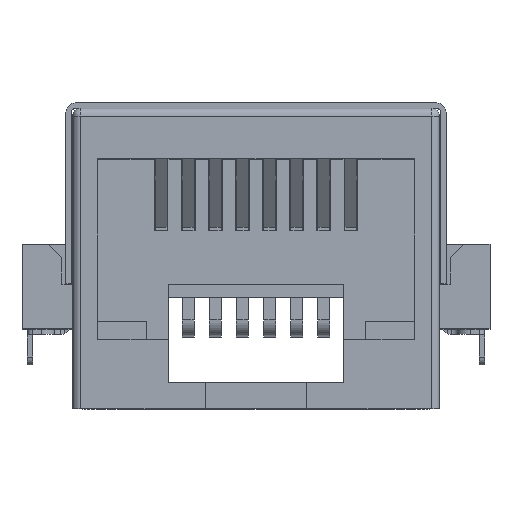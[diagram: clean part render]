
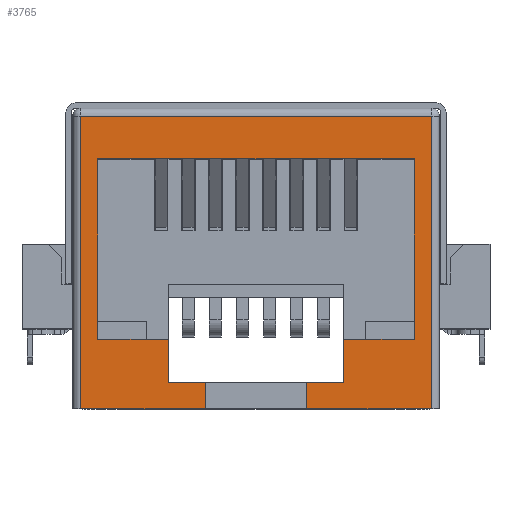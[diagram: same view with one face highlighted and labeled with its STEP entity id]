
A CAD part, top view. The second image highlights one B-rep face of the part: STEP entity #3765.
In plain terms, the highlighted planar face has unit normal (0, 0, 1).
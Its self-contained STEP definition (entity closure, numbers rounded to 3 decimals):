
#94 = VECTOR ( 'NONE', #2400, 1000. ) ;
#106 = CARTESIAN_POINT ( 'NONE',  ( 5.432, 3.002, 6.4 ) ) ;
#417 = EDGE_CURVE ( 'NONE', #15085, #4869, #5654, .T. ) ;
#470 = ORIENTED_EDGE ( 'NONE', *, *, #8264, .F. ) ;
#477 = DIRECTION ( 'NONE',  ( 1., 0., 0. ) ) ;
#484 = CARTESIAN_POINT ( 'NONE',  ( 5.432, 3.002, 6.4 ) ) ;
#950 = CARTESIAN_POINT ( 'NONE',  ( 0., 0., 6.4 ) ) ;
#1162 = LINE ( 'NONE', #14794, #14102 ) ;
#1293 = CARTESIAN_POINT ( 'NONE',  ( 2.782, -5.398, 6.4 ) ) ;
#1464 = DIRECTION ( 'NONE',  ( 1., 0., 0. ) ) ;
#1694 = ORIENTED_EDGE ( 'NONE', *, *, #15043, .T. ) ;
#1947 = EDGE_CURVE ( 'NONE', #7345, #17940, #4194, .T. ) ;
#2183 = ORIENTED_EDGE ( 'NONE', *, *, #417, .F. ) ;
#2227 = DIRECTION ( 'NONE',  ( 0., 1., 0. ) ) ;
#2255 = VECTOR ( 'NONE', #17512, 1000. ) ;
#2400 = DIRECTION ( 'NONE',  ( -1., 0., 0. ) ) ;
#2503 = ORIENTED_EDGE ( 'NONE', *, *, #11867, .F. ) ;
#3171 = CARTESIAN_POINT ( 'NONE',  ( -7.118, -6.398, 6.4 ) ) ;
#3333 = CARTESIAN_POINT ( 'NONE',  ( -6.468, 3.002, 6.4 ) ) ;
#3406 = VERTEX_POINT ( 'NONE', #8589 ) ;
#3534 = VERTEX_POINT ( 'NONE', #7232 ) ;
#3537 = ORIENTED_EDGE ( 'NONE', *, *, #10666, .F. ) ;
#3624 = CARTESIAN_POINT ( 'NONE',  ( -2.418, 3.935, 6.4 ) ) ;
#3670 = EDGE_CURVE ( 'NONE', #14871, #8683, #5391, .T. ) ;
#3727 = CARTESIAN_POINT ( 'NONE',  ( -3.818, -5.398, 6.4 ) ) ;
#3765 = ADVANCED_FACE ( 'NONE', ( #8040 ), #16388, .T. ) ;
#3775 = CARTESIAN_POINT ( 'NONE',  ( 1.382, 3.935, 6.4 ) ) ;
#3801 = CARTESIAN_POINT ( 'NONE',  ( -2.418, -5.398, 6.4 ) ) ;
#3809 = DIRECTION ( 'NONE',  ( 1., 0., 0. ) ) ;
#3819 = DIRECTION ( 'NONE',  ( 0., -1., 0. ) ) ;
#3995 = EDGE_CURVE ( 'NONE', #3534, #5067, #10197, .T. ) ;
#4151 = LINE ( 'NONE', #12408, #4690 ) ;
#4194 = LINE ( 'NONE', #8551, #12685 ) ;
#4487 = CARTESIAN_POINT ( 'NONE',  ( -7.118, 4.602, 6.4 ) ) ;
#4495 = ORIENTED_EDGE ( 'NONE', *, *, #8651, .T. ) ;
#4690 = VECTOR ( 'NONE', #11039, 1000. ) ;
#4869 = VERTEX_POINT ( 'NONE', #3801 ) ;
#4894 = ORIENTED_EDGE ( 'NONE', *, *, #10582, .T. ) ;
#5067 = VERTEX_POINT ( 'NONE', #6875 ) ;
#5069 = EDGE_CURVE ( 'NONE', #3406, #3534, #4151, .T. ) ;
#5158 = LINE ( 'NONE', #3624, #2255 ) ;
#5391 = LINE ( 'NONE', #16302, #94 ) ;
#5529 = EDGE_CURVE ( 'NONE', #16116, #3406, #8201, .T. ) ;
#5654 = LINE ( 'NONE', #13930, #9933 ) ;
#5900 = VERTEX_POINT ( 'NONE', #6813 ) ;
#5906 = VECTOR ( 'NONE', #477, 1000. ) ;
#6025 = DIRECTION ( 'NONE',  ( 1., 0., 0. ) ) ;
#6180 = VECTOR ( 'NONE', #11314, 1000. ) ;
#6344 = VECTOR ( 'NONE', #6768, 1000. ) ;
#6768 = DIRECTION ( 'NONE',  ( 0., -1., 0. ) ) ;
#6813 = CARTESIAN_POINT ( 'NONE',  ( -2.418, -6.398, 6.4 ) ) ;
#6848 = VERTEX_POINT ( 'NONE', #14296 ) ;
#6875 = CARTESIAN_POINT ( 'NONE',  ( 5.432, -3.798, 6.4 ) ) ;
#6884 = LINE ( 'NONE', #3333, #6180 ) ;
#6995 = ORIENTED_EDGE ( 'NONE', *, *, #1947, .F. ) ;
#7232 = CARTESIAN_POINT ( 'NONE',  ( 2.782, -3.798, 6.4 ) ) ;
#7345 = VERTEX_POINT ( 'NONE', #106 ) ;
#7398 = LINE ( 'NONE', #11384, #7652 ) ;
#7652 = VECTOR ( 'NONE', #6025, 1000. ) ;
#7876 = VERTEX_POINT ( 'NONE', #3171 ) ;
#7937 = CARTESIAN_POINT ( 'NONE',  ( -3.818, -3.798, 6.4 ) ) ;
#8040 = FACE_OUTER_BOUND ( 'NONE', #8078, .T. ) ;
#8042 = LINE ( 'NONE', #3775, #6344 ) ;
#8078 = EDGE_LOOP ( 'NONE', ( #4894, #17032, #17542, #1694, #4495, #3537, #2183, #10233, #2503, #470, #6995, #9900, #11270, #10139, #16320, #17962 ) ) ;
#8201 = LINE ( 'NONE', #1293, #11072 ) ;
#8264 = EDGE_CURVE ( 'NONE', #17940, #6848, #6884, .T. ) ;
#8296 = DIRECTION ( 'NONE',  ( 1., 0., 0. ) ) ;
#8551 = CARTESIAN_POINT ( 'NONE',  ( -6.468, 3.002, 6.4 ) ) ;
#8589 = CARTESIAN_POINT ( 'NONE',  ( 2.782, -5.398, 6.4 ) ) ;
#8651 = EDGE_CURVE ( 'NONE', #7876, #5900, #7398, .T. ) ;
#8683 = VERTEX_POINT ( 'NONE', #4487 ) ;
#9303 = CARTESIAN_POINT ( 'NONE',  ( 1.382, -6.398, 6.4 ) ) ;
#9900 = ORIENTED_EDGE ( 'NONE', *, *, #11288, .F. ) ;
#9933 = VECTOR ( 'NONE', #8296, 1000. ) ;
#10139 = ORIENTED_EDGE ( 'NONE', *, *, #5069, .F. ) ;
#10197 = LINE ( 'NONE', #15746, #5906 ) ;
#10233 = ORIENTED_EDGE ( 'NONE', *, *, #11385, .F. ) ;
#10383 = CARTESIAN_POINT ( 'NONE',  ( -3.818, -3.798, 6.4 ) ) ;
#10582 = EDGE_CURVE ( 'NONE', #12780, #16953, #12234, .T. ) ;
#10666 = EDGE_CURVE ( 'NONE', #4869, #5900, #5158, .T. ) ;
#10669 = DIRECTION ( 'NONE',  ( 1., 0., 0. ) ) ;
#10857 = CARTESIAN_POINT ( 'NONE',  ( 6.082, 4.602, 6.4 ) ) ;
#10971 = EDGE_CURVE ( 'NONE', #16953, #14871, #16131, .T. ) ;
#11039 = DIRECTION ( 'NONE',  ( 0., 1., 0. ) ) ;
#11072 = VECTOR ( 'NONE', #1464, 1000. ) ;
#11270 = ORIENTED_EDGE ( 'NONE', *, *, #3995, .F. ) ;
#11288 = EDGE_CURVE ( 'NONE', #5067, #7345, #12840, .T. ) ;
#11314 = DIRECTION ( 'NONE',  ( 0., -1., 0. ) ) ;
#11349 = CARTESIAN_POINT ( 'NONE',  ( 6.082, 4.602, 6.4 ) ) ;
#11384 = CARTESIAN_POINT ( 'NONE',  ( -9.318, -6.398, 6.4 ) ) ;
#11385 = EDGE_CURVE ( 'NONE', #12603, #15085, #14745, .T. ) ;
#11567 = VECTOR ( 'NONE', #3819, 1000. ) ;
#11621 = CARTESIAN_POINT ( 'NONE',  ( 1.382, -5.398, 6.4 ) ) ;
#11623 = CARTESIAN_POINT ( 'NONE',  ( -6.468, 3.002, 6.4 ) ) ;
#11698 = AXIS2_PLACEMENT_3D ( 'NONE', #950, #12298, #10669 ) ;
#11867 = EDGE_CURVE ( 'NONE', #6848, #12603, #1162, .T. ) ;
#11974 = LINE ( 'NONE', #12061, #11567 ) ;
#12061 = CARTESIAN_POINT ( 'NONE',  ( -7.118, -6.398, 6.4 ) ) ;
#12234 = LINE ( 'NONE', #13519, #15891 ) ;
#12298 = DIRECTION ( 'NONE',  ( 0., 0., 1. ) ) ;
#12408 = CARTESIAN_POINT ( 'NONE',  ( 2.782, -3.798, 6.4 ) ) ;
#12603 = VERTEX_POINT ( 'NONE', #10383 ) ;
#12685 = VECTOR ( 'NONE', #13824, 1000. ) ;
#12780 = VERTEX_POINT ( 'NONE', #9303 ) ;
#12840 = LINE ( 'NONE', #484, #15050 ) ;
#13519 = CARTESIAN_POINT ( 'NONE',  ( -9.318, -6.398, 6.4 ) ) ;
#13824 = DIRECTION ( 'NONE',  ( -1., 0., 0. ) ) ;
#13930 = CARTESIAN_POINT ( 'NONE',  ( 2.782, -5.398, 6.4 ) ) ;
#14102 = VECTOR ( 'NONE', #3809, 1000. ) ;
#14296 = CARTESIAN_POINT ( 'NONE',  ( -6.468, -3.798, 6.4 ) ) ;
#14745 = LINE ( 'NONE', #7937, #16775 ) ;
#14794 = CARTESIAN_POINT ( 'NONE',  ( -6.468, -3.798, 6.4 ) ) ;
#14871 = VERTEX_POINT ( 'NONE', #11349 ) ;
#14974 = DIRECTION ( 'NONE',  ( 1., 0., 0. ) ) ;
#15043 = EDGE_CURVE ( 'NONE', #8683, #7876, #11974, .T. ) ;
#15050 = VECTOR ( 'NONE', #16928, 1000. ) ;
#15085 = VERTEX_POINT ( 'NONE', #3727 ) ;
#15746 = CARTESIAN_POINT ( 'NONE',  ( 5.432, -3.798, 6.4 ) ) ;
#15891 = VECTOR ( 'NONE', #14974, 1000. ) ;
#16116 = VERTEX_POINT ( 'NONE', #11621 ) ;
#16131 = LINE ( 'NONE', #10857, #17069 ) ;
#16199 = DIRECTION ( 'NONE',  ( 0., -1., 0. ) ) ;
#16302 = CARTESIAN_POINT ( 'NONE',  ( -7.118, 4.602, 6.4 ) ) ;
#16320 = ORIENTED_EDGE ( 'NONE', *, *, #5529, .F. ) ;
#16388 = PLANE ( 'NONE',  #11698 ) ;
#16775 = VECTOR ( 'NONE', #16199, 1000. ) ;
#16928 = DIRECTION ( 'NONE',  ( 0., 1., 0. ) ) ;
#16953 = VERTEX_POINT ( 'NONE', #17036 ) ;
#17032 = ORIENTED_EDGE ( 'NONE', *, *, #10971, .T. ) ;
#17036 = CARTESIAN_POINT ( 'NONE',  ( 6.082, -6.398, 6.4 ) ) ;
#17069 = VECTOR ( 'NONE', #2227, 1000. ) ;
#17210 = EDGE_CURVE ( 'NONE', #16116, #12780, #8042, .T. ) ;
#17512 = DIRECTION ( 'NONE',  ( 0., -1., 0. ) ) ;
#17542 = ORIENTED_EDGE ( 'NONE', *, *, #3670, .T. ) ;
#17940 = VERTEX_POINT ( 'NONE', #11623 ) ;
#17962 = ORIENTED_EDGE ( 'NONE', *, *, #17210, .T. ) ;
